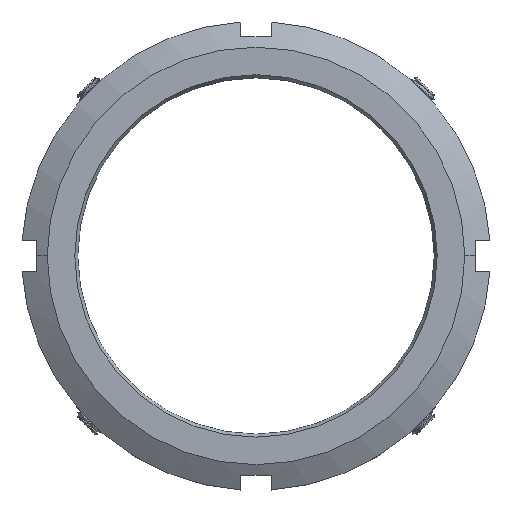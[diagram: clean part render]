
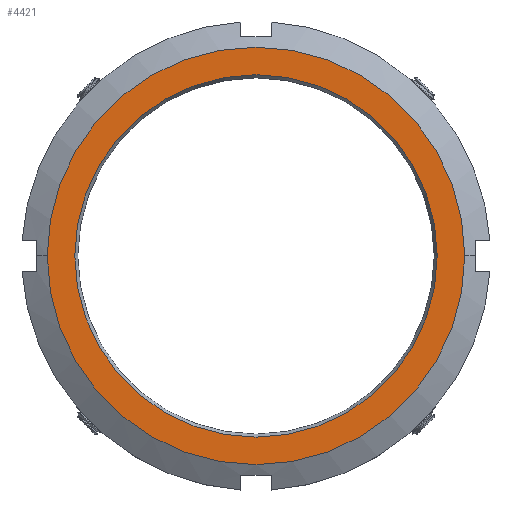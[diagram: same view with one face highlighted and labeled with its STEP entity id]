
A CAD part, top view. The second image highlights one B-rep face of the part: STEP entity #4421.
In plain terms, the highlighted planar face has unit normal (0, 0, 1).
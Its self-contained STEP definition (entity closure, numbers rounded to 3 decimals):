
#72 = CARTESIAN_POINT ( 'NONE',  ( 293.277, 26.193, 21. ) ) ;
#74 = DIRECTION ( 'NONE',  ( 0., 0., -1. ) ) ;
#75 = DIRECTION ( 'NONE',  ( 1., 0., 0. ) ) ;
#106 = CARTESIAN_POINT ( 'NONE',  ( 293.277, 26.193, 21. ) ) ;
#108 = DIRECTION ( 'NONE',  ( 0., 0., 1. ) ) ;
#109 = DIRECTION ( 'NONE',  ( 1., 0., 0. ) ) ;
#1107 = AXIS2_PLACEMENT_3D ( 'NONE', #5276, #5278, #5279 ) ;
#1727 = CARTESIAN_POINT ( 'NONE',  ( 293.277, 26.193, 21. ) ) ;
#1731 = DIRECTION ( 'NONE',  ( 0., 0., -1. ) ) ;
#1732 = DIRECTION ( 'NONE',  ( 1., 0., 0. ) ) ;
#1738 = CARTESIAN_POINT ( 'NONE',  ( 293.277, 26.193, 21. ) ) ;
#1739 = DIRECTION ( 'NONE',  ( 0., 0., 1. ) ) ;
#1740 = DIRECTION ( 'NONE',  ( 1., 0., 0. ) ) ;
#2590 = CARTESIAN_POINT ( 'NONE',  ( 233.375, 26.193, 21. ) ) ;
#2597 = CARTESIAN_POINT ( 'NONE',  ( 224.291, 26.193, 21. ) ) ;
#2611 = CARTESIAN_POINT ( 'NONE',  ( 362.264, 26.193, 21. ) ) ;
#2639 = CARTESIAN_POINT ( 'NONE',  ( 353.18, 26.193, 21. ) ) ;
#3195 = EDGE_CURVE ( 'NONE', #6118, #6171, #5139, .T. ) ;
#3198 = EDGE_CURVE ( 'NONE', #6126, #6141, #5142, .T. ) ;
#3665 = EDGE_CURVE ( 'NONE', #6171, #6118, #5197, .T. ) ;
#3676 = EDGE_CURVE ( 'NONE', #6141, #6126, #3796, .T. ) ;
#3796 = CIRCLE ( 'NONE', #6002, 68.986 ) ;
#3931 = FACE_BOUND ( 'NONE', #5038, .T. ) ;
#3936 = FACE_OUTER_BOUND ( 'NONE', #4987, .T. ) ;
#4421 = ADVANCED_FACE ( 'NONE', ( #3931, #3936 ), #5277, .T. ) ;
#4709 = ORIENTED_EDGE ( 'NONE', *, *, #3665, .T. ) ;
#4710 = ORIENTED_EDGE ( 'NONE', *, *, #3195, .T. ) ;
#4711 = ORIENTED_EDGE ( 'NONE', *, *, #3198, .T. ) ;
#4712 = ORIENTED_EDGE ( 'NONE', *, *, #3676, .T. ) ;
#4987 = EDGE_LOOP ( 'NONE', ( #4711, #4712 ) ) ;
#5038 = EDGE_LOOP ( 'NONE', ( #4709, #4710 ) ) ;
#5139 = CIRCLE ( 'NONE', #5988, 59.903 ) ;
#5142 = CIRCLE ( 'NONE', #5987, 68.986 ) ;
#5197 = CIRCLE ( 'NONE', #5997, 59.903 ) ;
#5276 = CARTESIAN_POINT ( 'NONE',  ( 293.277, 26.193, 21. ) ) ;
#5277 = PLANE ( 'NONE',  #1107 ) ;
#5278 = DIRECTION ( 'NONE',  ( 0., 0., 1. ) ) ;
#5279 = DIRECTION ( 'NONE',  ( 1., 0., 0. ) ) ;
#5987 = AXIS2_PLACEMENT_3D ( 'NONE', #1738, #1739, #1740 ) ;
#5988 = AXIS2_PLACEMENT_3D ( 'NONE', #1727, #1731, #1732 ) ;
#5997 = AXIS2_PLACEMENT_3D ( 'NONE', #72, #74, #75 ) ;
#6002 = AXIS2_PLACEMENT_3D ( 'NONE', #106, #108, #109 ) ;
#6118 = VERTEX_POINT ( 'NONE', #2590 ) ;
#6126 = VERTEX_POINT ( 'NONE', #2597 ) ;
#6141 = VERTEX_POINT ( 'NONE', #2611 ) ;
#6171 = VERTEX_POINT ( 'NONE', #2639 ) ;
